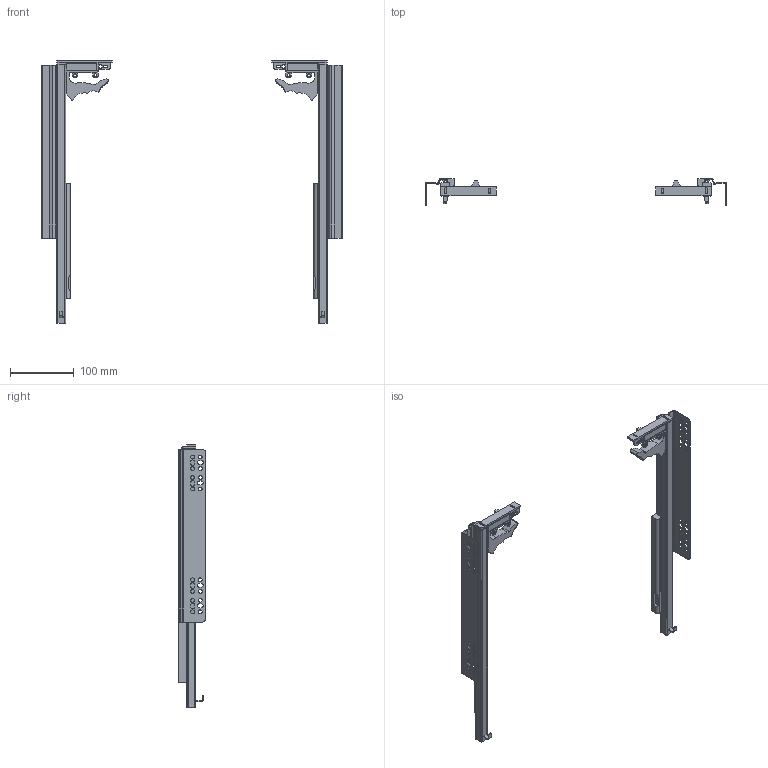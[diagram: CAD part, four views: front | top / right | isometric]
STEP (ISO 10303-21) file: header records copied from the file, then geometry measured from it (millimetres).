
FILE_DESCRIPTION(/* description */ ('Akc'),/* implementation_level */ '2;1');
FILE_NAME(/* name */ 'C:\Users\dmitruk\Documents\WORK\НАПРАВЛЯЮЩИЕ\Скрытого монтажа\Q-Type\Q-Type с замками (18 мм)\Q-Type с замками (18 мм)-400.stp',/* time_stamp */ '2022-04-22T17:47:10+03:00',/* author */ ('dmitruk'),/* organization */ (''),/* preprocessor_version */ 'ST-DEVELOPER v16.5',/* originating_system */ 'Autodesk Inventor 2017',/* authorisation */ '');
FILE_SCHEMA (('AUTOMOTIVE_DESIGN { 1 0 10303 214 3 1 1 }'));
Length unit declared in the file: millimetre
Products named in the file (6): Q-Type с замками 
(18 мм); Q-Type с замками \X2\043E0441
043D043E04320430043D04380435\X0\ L (18 мм); Q-Type с замками \X2\043E0441
043D043E04320430043D04380435\X0\ P (18 мм); Q-Type с замками 
выдвижение P; Крепление QType; Крепление QType P
Assembly tree (6 placements, depth 2):
  Q-Type с замками 
(18 мм)
    Q-Type с замками \X2\043E0441
043D043E04320430043D04380435\X0\ L (18 мм)
    Q-Type с замками 
выдвижение P  x2
    Q-Type с замками \X2\043E0441
043D043E04320430043D04380435\X0\ P (18 мм)
    Крепление QType
    Крепление QType P
Bounding box: 469.18 x 42 x 410 mm (x, y, z)
Volume: 226339.5 mm3; surface area: 233145 mm2
Topology: 14 solids, 14 shells, 570 faces, 1552 edges, 1014 vertices
Faces by surface type: plane 334, cylinder 212, cone 20, bspline 4
Full cylindrical faces by diameter (mm): 4.5 x4, 6 x32
Entity records: 17193 total; most frequent: CARTESIAN_POINT 2985, DIRECTION 2874, ORIENTED_EDGE 2800, EDGE_CURVE 1400, LINE 980, VECTOR 980, AXIS2_PLACEMENT_3D 947, VERTEX_POINT 942
